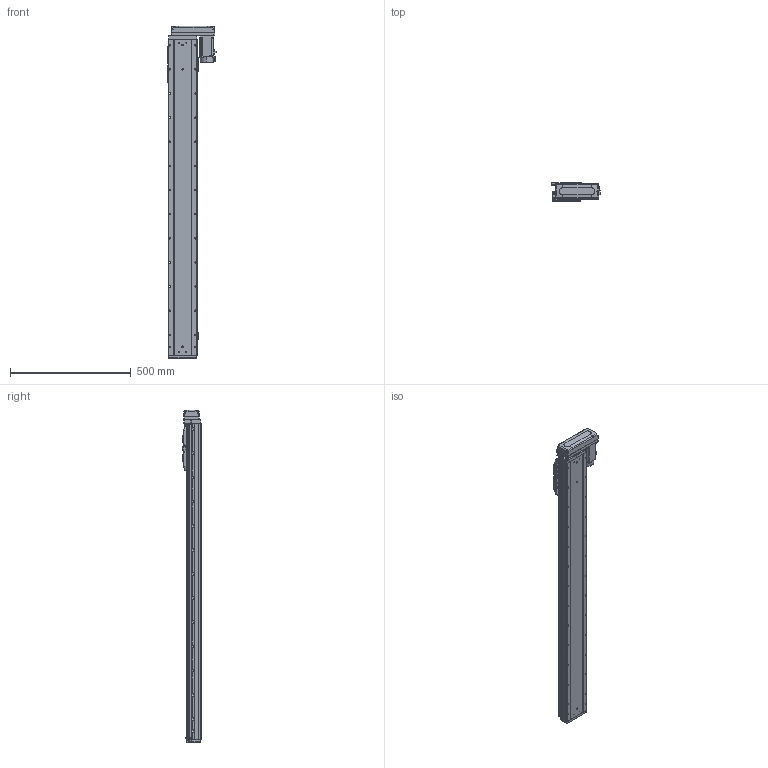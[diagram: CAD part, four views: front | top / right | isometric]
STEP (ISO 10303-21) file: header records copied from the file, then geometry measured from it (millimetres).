
FILE_DESCRIPTION (( 'STEP AP203' ), '1' );
FILE_NAME ('GTH12-1100-BL-M40-C4.step', '2023-07-04T10:39:36', ( '微软用户' ), ( '微软中国' ), 'SwSTEP 2.0', 'SolidWorks 2020', '' );
FILE_SCHEMA (( 'CONFIG_CONTROL_DESIGN' ));
Length unit declared in the file: millimetre
Products named in the file (18): GTH50-024; GTH120-003; GTH80-022; GBT96.1-2002 3×0.8; GTH120-006; BTH-M3X5X6; GTH120-004; hg-kn43j_-s100_; GTH120-013; CTHA86-033_M40B; GBT 70.1-M3℅6; GTH80-028; GTH120-027-1_GTH120-027-2; GBT 70.1-M5×16; GTH50-023; GTH120-001_1100; GTH12-1100-BL-M40-C4; GBT 70.3-M3℅8
Assembly tree (59 placements, depth 2):
  GTH12-1100-BL-M40-C4
    GTH120-001_1100
    GTH120-003
    GTH120-006
    GTH120-004
    GTH120-013
    GBT 70.1-M3℅6  x14
    GBT 70.1-M5×16  x10
    GBT 70.3-M3℅8  x4
    GTH80-022
    GTH80-028  x2
    GTH50-023  x3
    GTH50-024  x3
    GBT96.1-2002 3×0.8  x6
    BTH-M3X5X6  x8
    hg-kn43j_-s100_
    CTHA86-033_M40B
    GTH120-027-1_GTH120-027-2
Bounding box: 199.8 x 76 x 1375.5 mm (x, y, z)
Volume: 9818653.3 mm3; surface area: 829570.5 mm2
Topology: 61 solids, 61 shells, 2566 faces, 6021 edges, 3697 vertices
Faces by surface type: plane 1302, cylinder 764, cone 312, torus 174, sphere 8, bspline 6
Entity records: 49399 total; most frequent: CARTESIAN_POINT 8370, DIRECTION 8229, ORIENTED_EDGE 7652, EDGE_CURVE 3826, AXIS2_PLACEMENT_3D 2877, LINE 2475, VECTOR 2475, VERTEX_POINT 2418
